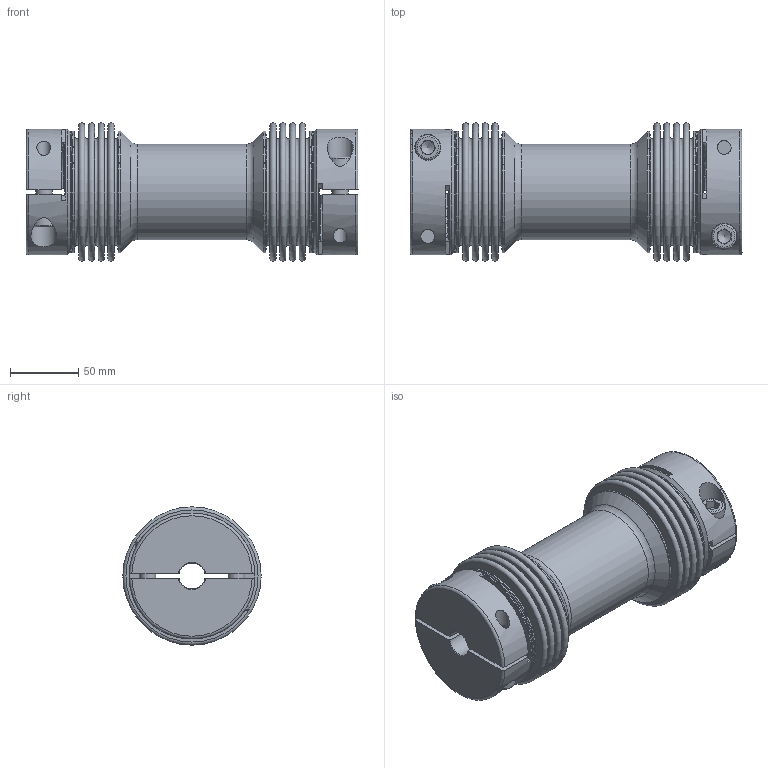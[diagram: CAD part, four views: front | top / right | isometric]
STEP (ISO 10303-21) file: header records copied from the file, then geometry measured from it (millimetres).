
FILE_DESCRIPTION(/* description */ ('Unknown','CAx-IF Rec.Pracs.---Representation and Presentation of Product Manufacturing Information (PMI)---4.0---2014-10-13','CAx-IF Rec.Pracs.---3D Tessellated Geometry---0.4---2014-09-14','2;1'),/* implementation_level */ '2;1');
FILE_NAME(/* name */ 'WDB 400',/* time_stamp */ '2023-01-16T11:53:55+01:00',/* author */ ('Unknown'),/* organization */ ('Unknown'),/* preprocessor_version */ 'ST-DEVELOPER v18.102',/* originating_system */ 'Solid Edge',/* authorisation */ 'Unknown');
FILE_SCHEMA (('AP242_MANAGED_MODEL_BASED_3D_ENGINEERING_MIM_LF { 1 0 10303 442 1 1 4 }'));
Length unit declared in the file: millimetre
Products named in the file (1): 16824423
Bounding box: 242.53 x 101 x 101 mm (x, y, z)
Volume: 521165.9 mm3; surface area: 296231.5 mm2
Topology: 1 solids, 3 shells, 276 faces, 602 edges, 380 vertices
Faces by surface type: plane 130, cylinder 60, torus 56, cone 30
Full cylindrical faces by diameter (mm): 10.106 x8, 12 x4, 12.5 x4, 18 x4, 19 x4, 65 x1, 70 x5, 88 x4, 89 x4, 92 x2
Entity records: 9406 total; most frequent: CARTESIAN_POINT 1895, DIRECTION 1224, ORIENTED_EDGE 916, AXIS2_PLACEMENT_3D 536, EDGE_CURVE 458, FACE_BOUND 452, EDGE_LOOP 448, VERTEX_POINT 350
